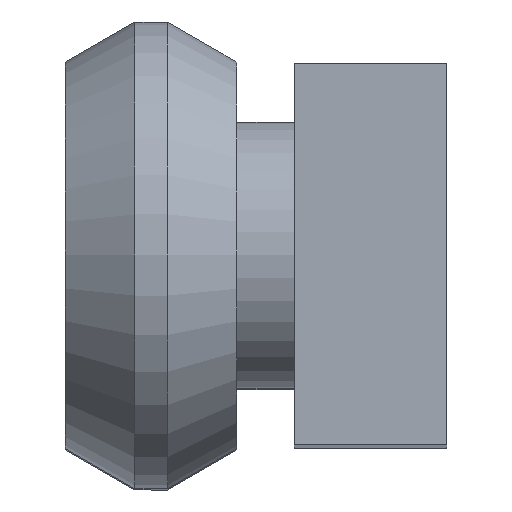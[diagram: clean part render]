
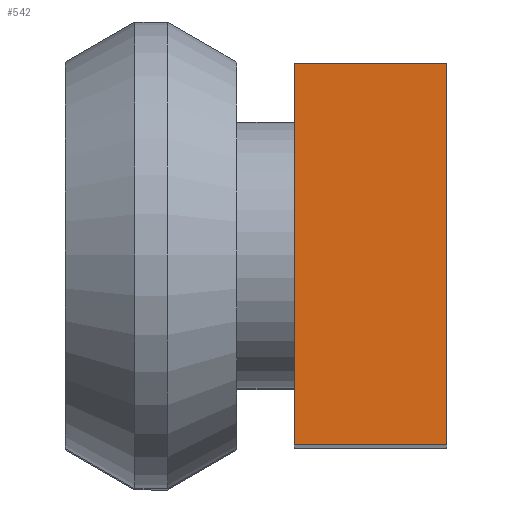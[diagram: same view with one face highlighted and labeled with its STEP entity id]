
A CAD part, top view. The second image highlights one B-rep face of the part: STEP entity #542.
In plain terms, the highlighted planar face has unit normal (0, 0, 1).
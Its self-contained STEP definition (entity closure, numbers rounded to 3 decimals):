
#1 = LINE ( 'NONE', #409, #713 ) ;
#111 = LINE ( 'NONE', #989, #1139 ) ;
#149 = FACE_OUTER_BOUND ( 'NONE', #369, .T. ) ;
#220 = DIRECTION ( 'NONE',  ( 0., -1., 0. ) ) ;
#235 = DIRECTION ( 'NONE',  ( -1., 0., 0. ) ) ;
#242 = EDGE_CURVE ( 'NONE', #1164, #544, #876, .T. ) ;
#358 = CARTESIAN_POINT ( 'NONE',  ( 8., 20., 0. ) ) ;
#369 = EDGE_LOOP ( 'NONE', ( #424, #875, #666, #576 ) ) ;
#378 = DIRECTION ( 'NONE',  ( 0., -1., 0. ) ) ;
#397 = CARTESIAN_POINT ( 'NONE',  ( 0., 0., 0. ) ) ;
#409 = CARTESIAN_POINT ( 'NONE',  ( 8., 0., 0. ) ) ;
#424 = ORIENTED_EDGE ( 'NONE', *, *, #242, .T. ) ;
#457 = AXIS2_PLACEMENT_3D ( 'NONE', #653, #940, #235 ) ;
#467 = VERTEX_POINT ( 'NONE', #747 ) ;
#542 = ADVANCED_FACE ( 'NONE', ( #149 ), #1222, .F. ) ;
#544 = VERTEX_POINT ( 'NONE', #397 ) ;
#576 = ORIENTED_EDGE ( 'NONE', *, *, #741, .T. ) ;
#653 = CARTESIAN_POINT ( 'NONE',  ( 8., 0., 0. ) ) ;
#666 = ORIENTED_EDGE ( 'NONE', *, *, #824, .F. ) ;
#673 = EDGE_CURVE ( 'NONE', #467, #544, #111, .T. ) ;
#713 = VECTOR ( 'NONE', #220, 1000. ) ;
#718 = DIRECTION ( 'NONE',  ( -1., 0., 0. ) ) ;
#741 = EDGE_CURVE ( 'NONE', #1119, #1164, #1205, .T. ) ;
#747 = CARTESIAN_POINT ( 'NONE',  ( 8., 0., 0. ) ) ;
#794 = CARTESIAN_POINT ( 'NONE',  ( 0., 0., 0. ) ) ;
#819 = VECTOR ( 'NONE', #378, 1000. ) ;
#824 = EDGE_CURVE ( 'NONE', #1119, #467, #1, .T. ) ;
#860 = CARTESIAN_POINT ( 'NONE',  ( 0., 20., 0. ) ) ;
#875 = ORIENTED_EDGE ( 'NONE', *, *, #673, .F. ) ;
#876 = LINE ( 'NONE', #794, #819 ) ;
#913 = CARTESIAN_POINT ( 'NONE',  ( 8., 20., 0. ) ) ;
#940 = DIRECTION ( 'NONE',  ( 0., 0., -1. ) ) ;
#989 = CARTESIAN_POINT ( 'NONE',  ( 8., 0., 0. ) ) ;
#1080 = VECTOR ( 'NONE', #718, 1000. ) ;
#1119 = VERTEX_POINT ( 'NONE', #358 ) ;
#1139 = VECTOR ( 'NONE', #1276, 1000. ) ;
#1164 = VERTEX_POINT ( 'NONE', #860 ) ;
#1205 = LINE ( 'NONE', #913, #1080 ) ;
#1222 = PLANE ( 'NONE',  #457 ) ;
#1276 = DIRECTION ( 'NONE',  ( -1., 0., 0. ) ) ;
